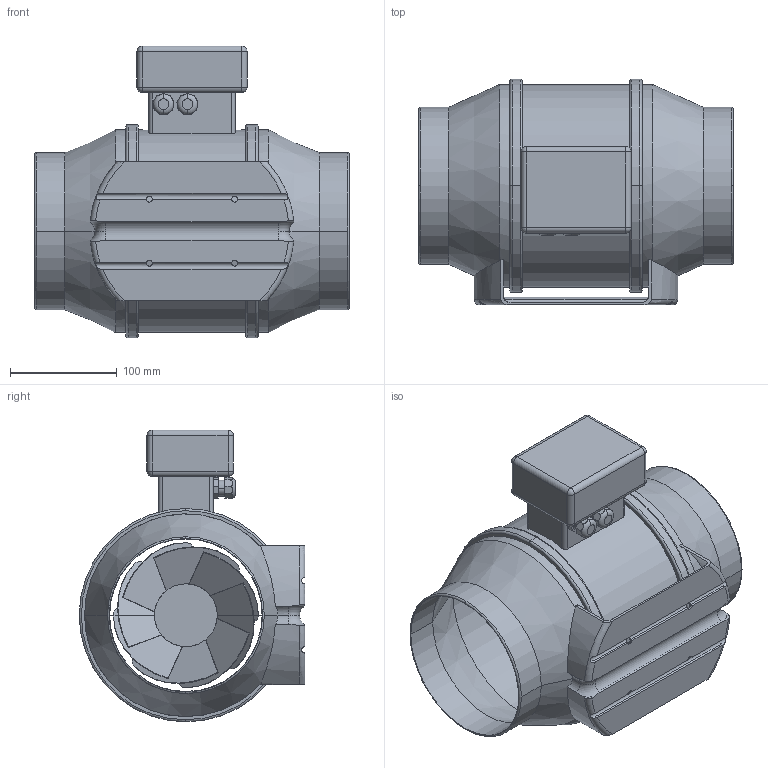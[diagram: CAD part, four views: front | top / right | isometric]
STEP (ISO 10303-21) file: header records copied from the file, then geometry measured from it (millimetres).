
FILE_DESCRIPTION(('STEP AP214'),'1');
FILE_NAME('fan_5211023600.stp','2017-03-31T12:39:15',('TraceParts'),('TraceParts S.A.'),'Spatial InterOp 3D',' ',' ');
FILE_SCHEMA(('automotive_design'));
Length unit declared in the file: millimetre
Products named in the file (1): fan_5211023600
Bounding box: 295 x 211.5 x 273.5 mm (x, y, z)
Volume: 1147359.8 mm3; surface area: 504675.9 mm2
Topology: 1 solids, 1 shells, 252 faces, 708 edges, 451 vertices
Faces by surface type: plane 102, cylinder 94, torus 36, cone 12, sphere 8
Entity records: 14335 total; most frequent: CARTESIAN_POINT 5892, ORIENTED_EDGE 1400, DIRECTION 1317, EDGE_CURVE 700, AXIS2_PLACEMENT_3D 516, VERTEX_POINT 451, LINE 285, VECTOR 285
